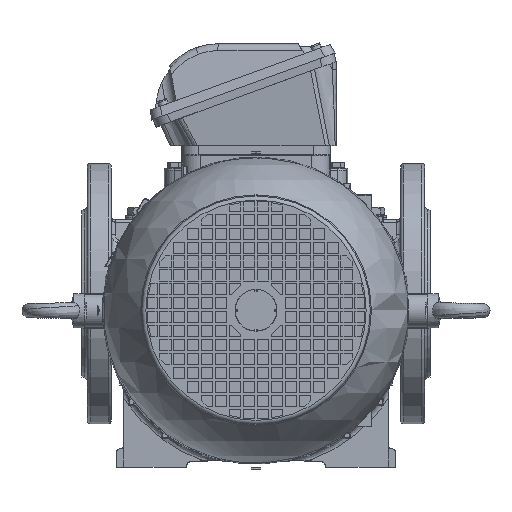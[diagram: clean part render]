
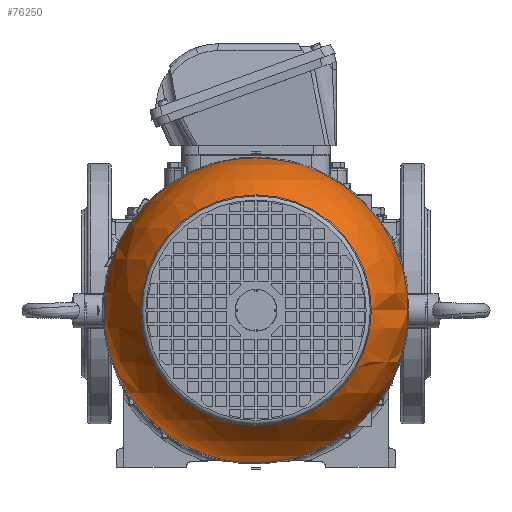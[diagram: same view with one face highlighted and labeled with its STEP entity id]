
A CAD part, top view. The second image highlights one B-rep face of the part: STEP entity #76250.
In plain terms, the highlighted spherical face has radius 109.545 mm.
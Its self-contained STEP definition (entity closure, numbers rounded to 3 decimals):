
#1014=SPHERICAL_SURFACE('',#81078,109.545);
#9008=FACE_BOUND('',#14358,.T.);
#9888=FACE_OUTER_BOUND('',#14357,.T.);
#14357=EDGE_LOOP('',(#53902,#53903));
#14358=EDGE_LOOP('',(#53904,#53905));
#30652=CIRCLE('',#81062,109.507);
#30663=CIRCLE('',#81079,11.444);
#30664=CIRCLE('',#81080,82.833);
#30665=CIRCLE('',#81081,82.833);
#33972=VERTEX_POINT('',#115781);
#33973=VERTEX_POINT('',#115782);
#34010=VERTEX_POINT('',#116055);
#34011=VERTEX_POINT('',#116056);
#41529=EDGE_CURVE('',#33972,#33973,#30652,.T.);
#41572=EDGE_CURVE('',#33973,#33972,#30663,.T.);
#41573=EDGE_CURVE('',#34010,#34011,#30664,.T.);
#41574=EDGE_CURVE('',#34011,#34010,#30665,.T.);
#53902=ORIENTED_EDGE('',*,*,#41529,.T.);
#53903=ORIENTED_EDGE('',*,*,#41572,.T.);
#53904=ORIENTED_EDGE('',*,*,#41573,.F.);
#53905=ORIENTED_EDGE('',*,*,#41574,.F.);
#76250=ADVANCED_FACE('',(#9888,#9008),#1014,.T.);
#81062=AXIS2_PLACEMENT_3D('',#115783,#89039,#89040);
#81078=AXIS2_PLACEMENT_3D('',#116053,#89086,#89087);
#81079=AXIS2_PLACEMENT_3D('',#116054,#89088,#89089);
#81080=AXIS2_PLACEMENT_3D('',#116057,#89090,#89091);
#81081=AXIS2_PLACEMENT_3D('',#116058,#89092,#89093);
#89039=DIRECTION('center_axis',(0.,0.,
1.));
#89040=DIRECTION('ref_axis',(0.,1.,0.));
#89086=DIRECTION('center_axis',(0.,-1.,0.));
#89087=DIRECTION('ref_axis',(-1.,0.,0.));
#89088=DIRECTION('center_axis',(-1.,0.,0.));
#89089=DIRECTION('ref_axis',(0.,1.,0.));
#89090=DIRECTION('center_axis',(0.,0.,
1.));
#89091=DIRECTION('ref_axis',(0.,1.,0.));
#89092=DIRECTION('center_axis',(0.,0.,
1.));
#89093=DIRECTION('ref_axis',(0.,1.,0.));
#115781=CARTESIAN_POINT('',(108.945,11.079,330.268));
#115782=CARTESIAN_POINT('',(108.945,-11.079,330.268));
#115783=CARTESIAN_POINT('Origin',(0.,0.,
330.268));
#116053=CARTESIAN_POINT('Origin',(0.,0.,
327.4));
#116054=CARTESIAN_POINT('Origin',(108.945,0.,
327.4));
#116055=CARTESIAN_POINT('',(0.,82.833,399.084));
#116056=CARTESIAN_POINT('',(0.,-82.833,399.084));
#116057=CARTESIAN_POINT('Origin',(0.,0.,
399.084));
#116058=CARTESIAN_POINT('Origin',(0.,0.,
399.084));
